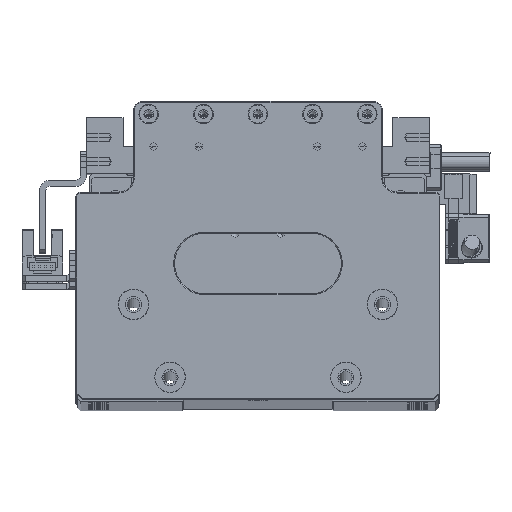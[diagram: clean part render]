
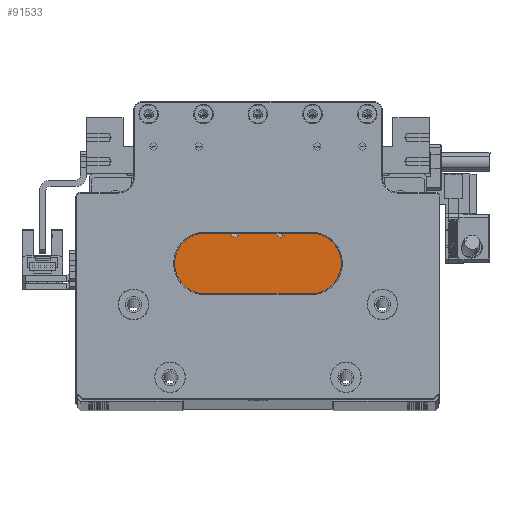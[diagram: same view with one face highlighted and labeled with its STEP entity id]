
A CAD part, top view. The second image highlights one B-rep face of the part: STEP entity #91533.
In plain terms, the highlighted planar face has unit normal (0, 0, 1).
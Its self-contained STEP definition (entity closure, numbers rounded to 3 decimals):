
#64 = DIRECTION ( 'NONE',  ( 1., 0., 0. ) ) ;
#2749 = CARTESIAN_POINT ( 'NONE',  ( 25.168, -17.023, 340. ) ) ;
#5788 = CARTESIAN_POINT ( 'NONE',  ( -34.632, -49.023, 340. ) ) ;
#6781 = LINE ( 'NONE', #119678, #55918 ) ;
#6812 = VERTEX_POINT ( 'NONE', #35715 ) ;
#6999 = VERTEX_POINT ( 'NONE', #8587 ) ;
#8587 = CARTESIAN_POINT ( 'NONE',  ( -23.132, -17.023, 340. ) ) ;
#8686 = CARTESIAN_POINT ( 'NONE',  ( -4.632, -9.023, 340. ) ) ;
#9985 = ORIENTED_EDGE ( 'NONE', *, *, #99209, .T. ) ;
#10261 = CIRCLE ( 'NONE', #13052, 1.25 ) ;
#10343 = EDGE_CURVE ( 'NONE', #125475, #124236, #122805, .T. ) ;
#10886 = ORIENTED_EDGE ( 'NONE', *, *, #126551, .T. ) ;
#13052 = AXIS2_PLACEMENT_3D ( 'NONE', #103805, #44941, #113674 ) ;
#14497 = CARTESIAN_POINT ( 'NONE',  ( 2.868, -17.023, 340. ) ) ;
#15777 = CARTESIAN_POINT ( 'NONE',  ( 13.868, -17.023, 340. ) ) ;
#18580 = DIRECTION ( 'NONE',  ( 0., 0., 1. ) ) ;
#19230 = DIRECTION ( 'NONE',  ( -1., 0., 0. ) ) ;
#19397 = VECTOR ( 'NONE', #94274, 1000. ) ;
#19827 = VERTEX_POINT ( 'NONE', #83321 ) ;
#20936 = CARTESIAN_POINT ( 'NONE',  ( -4.632, -17.023, 340. ) ) ;
#22185 = VECTOR ( 'NONE', #79704, 1000. ) ;
#22260 = EDGE_CURVE ( 'NONE', #6812, #6999, #6781, .T. ) ;
#22680 = FACE_OUTER_BOUND ( 'NONE', #55372, .T. ) ;
#24048 = ORIENTED_EDGE ( 'NONE', *, *, #10343, .T. ) ;
#24372 = ORIENTED_EDGE ( 'NONE', *, *, #76875, .T. ) ;
#24384 = DIRECTION ( 'NONE',  ( 1., 0., 0. ) ) ;
#25750 = FACE_BOUND ( 'NONE', #42021, .T. ) ;
#28273 = DIRECTION ( 'NONE',  ( 0., 1., 0. ) ) ;
#28530 = ORIENTED_EDGE ( 'NONE', *, *, #111743, .T. ) ;
#29843 = CARTESIAN_POINT ( 'NONE',  ( 25.168, -49.023, 340. ) ) ;
#34006 = EDGE_CURVE ( 'NONE', #96104, #77384, #45475, .T. ) ;
#34012 = LINE ( 'NONE', #88784, #79998 ) ;
#35048 = CARTESIAN_POINT ( 'NONE',  ( -13.382, -17.023, 340. ) ) ;
#35715 = CARTESIAN_POINT ( 'NONE',  ( -23.132, -9.223, 340. ) ) ;
#38477 = CARTESIAN_POINT ( 'NONE',  ( -34.432, -9.023, 340. ) ) ;
#39211 = VERTEX_POINT ( 'NONE', #2749 ) ;
#41204 = VERTEX_POINT ( 'NONE', #48173 ) ;
#41528 = VECTOR ( 'NONE', #117057, 1000. ) ;
#41938 = CARTESIAN_POINT ( 'NONE',  ( -10.882, -17.023, 340. ) ) ;
#42021 = EDGE_LOOP ( 'NONE', ( #78240, #10886 ) ) ;
#42305 = EDGE_CURVE ( 'NONE', #77384, #39211, #68607, .T. ) ;
#43858 = CARTESIAN_POINT ( 'NONE',  ( -34.432, -17.023, 340. ) ) ;
#44941 = DIRECTION ( 'NONE',  ( 0., 0., -1. ) ) ;
#45359 = DIRECTION ( 'NONE',  ( 0., 0., -1. ) ) ;
#45475 = LINE ( 'NONE', #5788, #19397 ) ;
#48173 = CARTESIAN_POINT ( 'NONE',  ( 13.868, -9.223, 340. ) ) ;
#48669 = CARTESIAN_POINT ( 'NONE',  ( 1.618, -17.023, 340. ) ) ;
#50726 = EDGE_CURVE ( 'NONE', #90008, #96104, #70699, .T. ) ;
#55372 = EDGE_LOOP ( 'NONE', ( #115569, #86939, #96529, #90822, #109692, #123126, #28530, #24372 ) ) ;
#55918 = VECTOR ( 'NONE', #60784, 1000. ) ;
#58871 = DIRECTION ( 'NONE',  ( 0., 0., -1. ) ) ;
#59798 = CIRCLE ( 'NONE', #83591, 1.25 ) ;
#60784 = DIRECTION ( 'NONE',  ( 0., -1., 0. ) ) ;
#62753 = VECTOR ( 'NONE', #19230, 1000. ) ;
#68514 = AXIS2_PLACEMENT_3D ( 'NONE', #14497, #83202, #24384 ) ;
#68607 = LINE ( 'NONE', #96994, #77821 ) ;
#70699 = LINE ( 'NONE', #38477, #41528 ) ;
#74384 = LINE ( 'NONE', #20936, #22185 ) ;
#75112 = AXIS2_PLACEMENT_3D ( 'NONE', #104243, #45359, #114106 ) ;
#76875 = EDGE_CURVE ( 'NONE', #81382, #41204, #34012, .T. ) ;
#77384 = VERTEX_POINT ( 'NONE', #29843 ) ;
#77821 = VECTOR ( 'NONE', #28273, 1000. ) ;
#78240 = ORIENTED_EDGE ( 'NONE', *, *, #111366, .T. ) ;
#78467 = EDGE_CURVE ( 'NONE', #41204, #6812, #108908, .T. ) ;
#79704 = DIRECTION ( 'NONE',  ( -1., 0., 0. ) ) ;
#79998 = VECTOR ( 'NONE', #98676, 1000. ) ;
#81382 = VERTEX_POINT ( 'NONE', #15777 ) ;
#83202 = DIRECTION ( 'NONE',  ( 0., 0., -1. ) ) ;
#83321 = CARTESIAN_POINT ( 'NONE',  ( 4.118, -17.023, 340. ) ) ;
#83591 = AXIS2_PLACEMENT_3D ( 'NONE', #117749, #58871, #64 ) ;
#83938 = LINE ( 'NONE', #89600, #113189 ) ;
#86939 = ORIENTED_EDGE ( 'NONE', *, *, #22260, .T. ) ;
#87292 = DIRECTION ( 'NONE',  ( 1., 0., 0. ) ) ;
#87939 = CARTESIAN_POINT ( 'NONE',  ( -4.632, -9.223, 340. ) ) ;
#88784 = CARTESIAN_POINT ( 'NONE',  ( 13.868, -9.023, 340. ) ) ;
#89181 = EDGE_LOOP ( 'NONE', ( #9985, #24048 ) ) ;
#89600 = CARTESIAN_POINT ( 'NONE',  ( -4.632, -17.023, 340. ) ) ;
#90008 = VERTEX_POINT ( 'NONE', #43858 ) ;
#90822 = ORIENTED_EDGE ( 'NONE', *, *, #50726, .T. ) ;
#91533 = ADVANCED_FACE ( 'NONE', ( #22680, #25750, #98002 ), #116519, .T. ) ;
#93874 = EDGE_CURVE ( 'NONE', #6999, #90008, #74384, .T. ) ;
#94274 = DIRECTION ( 'NONE',  ( 1., 0., 0. ) ) ;
#96104 = VERTEX_POINT ( 'NONE', #113206 ) ;
#96529 = ORIENTED_EDGE ( 'NONE', *, *, #93874, .T. ) ;
#96853 = CIRCLE ( 'NONE', #68514, 1.25 ) ;
#96994 = CARTESIAN_POINT ( 'NONE',  ( 25.168, -9.023, 340. ) ) ;
#98002 = FACE_BOUND ( 'NONE', #89181, .T. ) ;
#98676 = DIRECTION ( 'NONE',  ( 0., 1., 0. ) ) ;
#99209 = EDGE_CURVE ( 'NONE', #124236, #125475, #59798, .T. ) ;
#101206 = DIRECTION ( 'NONE',  ( -1., 0., 0. ) ) ;
#103805 = CARTESIAN_POINT ( 'NONE',  ( 2.868, -17.023, 340. ) ) ;
#104213 = VERTEX_POINT ( 'NONE', #48669 ) ;
#104243 = CARTESIAN_POINT ( 'NONE',  ( -12.132, -17.023, 340. ) ) ;
#108908 = LINE ( 'NONE', #87939, #62753 ) ;
#109692 = ORIENTED_EDGE ( 'NONE', *, *, #34006, .T. ) ;
#111366 = EDGE_CURVE ( 'NONE', #19827, #104213, #10261, .T. ) ;
#111743 = EDGE_CURVE ( 'NONE', #39211, #81382, #83938, .T. ) ;
#113189 = VECTOR ( 'NONE', #101206, 1000. ) ;
#113206 = CARTESIAN_POINT ( 'NONE',  ( -34.432, -49.023, 340. ) ) ;
#113674 = DIRECTION ( 'NONE',  ( 1., 0., 0. ) ) ;
#114106 = DIRECTION ( 'NONE',  ( 1., 0., 0. ) ) ;
#115569 = ORIENTED_EDGE ( 'NONE', *, *, #78467, .T. ) ;
#116519 = PLANE ( 'NONE',  #126669 ) ;
#117057 = DIRECTION ( 'NONE',  ( 0., -1., 0. ) ) ;
#117749 = CARTESIAN_POINT ( 'NONE',  ( -12.132, -17.023, 340. ) ) ;
#119678 = CARTESIAN_POINT ( 'NONE',  ( -23.132, -9.023, 340. ) ) ;
#122805 = CIRCLE ( 'NONE', #75112, 1.25 ) ;
#123126 = ORIENTED_EDGE ( 'NONE', *, *, #42305, .T. ) ;
#124236 = VERTEX_POINT ( 'NONE', #41938 ) ;
#125475 = VERTEX_POINT ( 'NONE', #35048 ) ;
#126551 = EDGE_CURVE ( 'NONE', #104213, #19827, #96853, .T. ) ;
#126669 = AXIS2_PLACEMENT_3D ( 'NONE', #8686, #18580, #87292 ) ;
